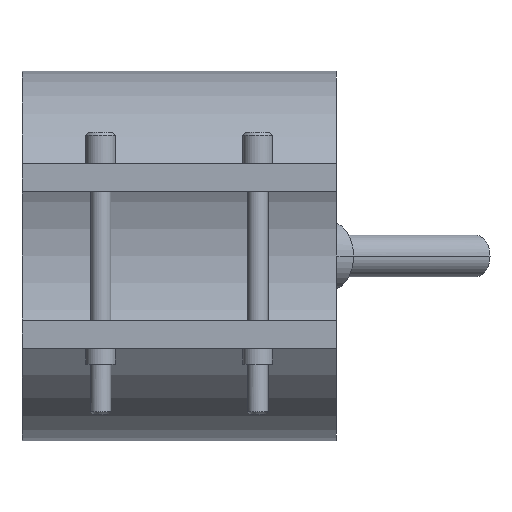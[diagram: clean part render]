
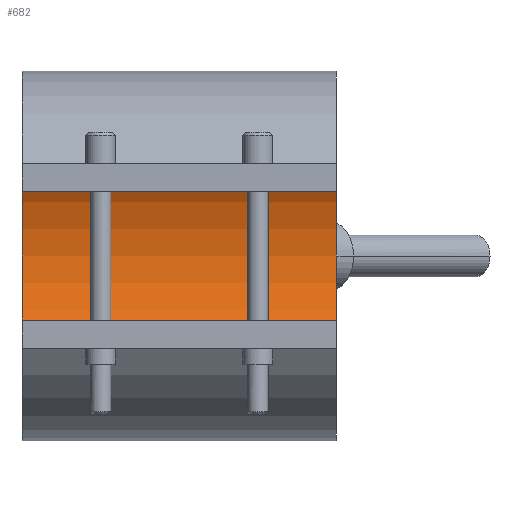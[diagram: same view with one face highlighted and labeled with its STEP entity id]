
A CAD part, front view. The second image highlights one B-rep face of the part: STEP entity #682.
In plain terms, the highlighted cylindrical face has radius 22.5 mm (diameter 45 mm), a partial arc.
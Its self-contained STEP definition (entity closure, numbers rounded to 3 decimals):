
#352=CARTESIAN_POINT('Vertex',(22.5,0.,22.5)) ;
#357=CARTESIAN_POINT('Axis2P3D Location',(22.5,0.,0.)) ;
#361=CARTESIAN_POINT('Vertex',(22.5,0.,-22.5)) ;
#468=CARTESIAN_POINT('Vertex',(-22.5,0.,-22.5)) ;
#471=CARTESIAN_POINT('Axis2P3D Location',(-22.5,0.,0.)) ;
#475=CARTESIAN_POINT('Vertex',(-22.5,0.,22.5)) ;
#654=CARTESIAN_POINT('Line Origine',(22.5,0.,22.5)) ;
#666=CARTESIAN_POINT('Axis2P3D Location',(22.5,0.,0.)) ;
#671=CARTESIAN_POINT('Line Origine',(22.5,0.,-22.5)) ;
#358=DIRECTION('Axis2P3D Direction',(1.,0.,0.)) ;
#472=DIRECTION('Axis2P3D Direction',(1.,0.,0.)) ;
#655=DIRECTION('Vector Direction',(1.,0.,0.)) ;
#667=DIRECTION('Axis2P3D Direction',(1.,0.,-0.)) ;
#668=DIRECTION('Axis2P3D XDirection',(0.,0.,-1.)) ;
#672=DIRECTION('Vector Direction',(1.,0.,0.)) ;
#359=AXIS2_PLACEMENT_3D('Circle Axis2P3D',#357,#358,$) ;
#473=AXIS2_PLACEMENT_3D('Circle Axis2P3D',#471,#472,$) ;
#669=AXIS2_PLACEMENT_3D('Cylinder Axis2P3D',#666,#667,#668) ;
#677=ORIENTED_EDGE('',*,*,#363,.T.) ;
#678=ORIENTED_EDGE('',*,*,#658,.T.) ;
#679=ORIENTED_EDGE('',*,*,#477,.F.) ;
#680=ORIENTED_EDGE('',*,*,#675,.T.) ;
#656=VECTOR('Line Direction',#655,1.) ;
#673=VECTOR('Line Direction',#672,1.) ;
#682=ADVANCED_FACE('29045045',(#681),#670,.F.) ;
#360=CIRCLE('generated circle',#359,22.5) ;
#474=CIRCLE('generated circle',#473,22.5) ;
#670=CYLINDRICAL_SURFACE('generated cylinder',#669,22.5) ;
#363=EDGE_CURVE('',#362,#353,#360,.T.) ;
#477=EDGE_CURVE('',#469,#476,#474,.T.) ;
#658=EDGE_CURVE('',#353,#476,#657,.F.) ;
#675=EDGE_CURVE('',#469,#362,#674,.T.) ;
#676=EDGE_LOOP('',(#677,#678,#679,#680)) ;
#681=FACE_OUTER_BOUND('',#676,.T.) ;
#657=LINE('Line',#654,#656) ;
#674=LINE('Line',#671,#673) ;
#353=VERTEX_POINT('',#352) ;
#362=VERTEX_POINT('',#361) ;
#469=VERTEX_POINT('',#468) ;
#476=VERTEX_POINT('',#475) ;
